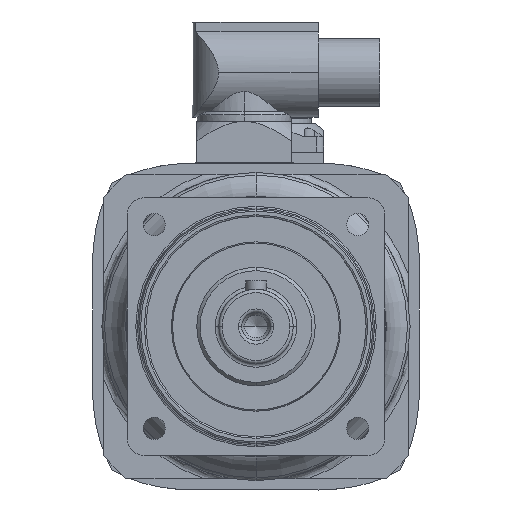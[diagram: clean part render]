
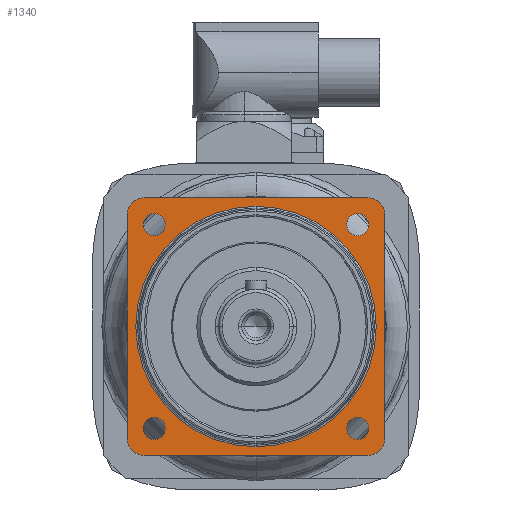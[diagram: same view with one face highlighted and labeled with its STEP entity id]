
A CAD part, left-side view. The second image highlights one B-rep face of the part: STEP entity #1340.
In plain terms, the highlighted planar face has unit normal (-1, 0, 0).
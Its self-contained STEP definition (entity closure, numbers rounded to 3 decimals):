
#1340=ADVANCED_FACE('',(#3512,#3513,#3514,#3515,#3516,#3517),#3518,.F.);
#1668=EDGE_CURVE('',#4000,#3994,#4003,.T.);
#1672=EDGE_CURVE('',#3994,#4000,#4007,.T.);
#3512=FACE_BOUND('',#6574,.T.);
#3513=FACE_BOUND('',#6575,.T.);
#3514=FACE_BOUND('',#6576,.T.);
#3515=FACE_BOUND('',#6577,.T.);
#3516=FACE_OUTER_BOUND('',#6578,.T.);
#3517=FACE_BOUND('',#6579,.T.);
#3518=PLANE('',#6580);
#3994=VERTEX_POINT('',#7219);
#4000=VERTEX_POINT('',#7227);
#4003=CIRCLE('',#7231,35.5);
#4007=CIRCLE('',#7237,35.5);
#6574=EDGE_LOOP('',(#11538,#11539));
#6575=EDGE_LOOP('',(#11540,#11541));
#6576=EDGE_LOOP('',(#11542,#11543));
#6577=EDGE_LOOP('',(#11544,#11545));
#6578=EDGE_LOOP('',(#11546,#11547,#11548,#11549,#11550,#11551,#11552,#11553));
#6579=EDGE_LOOP('',(#11554,#11555));
#6580=AXIS2_PLACEMENT_3D('',#11556,#11557,#11558);
#7219=CARTESIAN_POINT('',(-112.0,0.,35.5));
#7227=CARTESIAN_POINT('',(-112.0,0.,-35.5));
#7231=AXIS2_PLACEMENT_3D('',#12587,#12588,#12589);
#7237=AXIS2_PLACEMENT_3D('',#12593,#12594,#12595);
#11538=ORIENTED_EDGE('',*,*,#17834,.F.);
#11539=ORIENTED_EDGE('',*,*,#17687,.F.);
#11540=ORIENTED_EDGE('',*,*,#17835,.F.);
#11541=ORIENTED_EDGE('',*,*,#17692,.F.);
#11542=ORIENTED_EDGE('',*,*,#17836,.F.);
#11543=ORIENTED_EDGE('',*,*,#17697,.F.);
#11544=ORIENTED_EDGE('',*,*,#17837,.F.);
#11545=ORIENTED_EDGE('',*,*,#17702,.F.);
#11546=ORIENTED_EDGE('',*,*,#17838,.F.);
#11547=ORIENTED_EDGE('',*,*,#17839,.F.);
#11548=ORIENTED_EDGE('',*,*,#17840,.F.);
#11549=ORIENTED_EDGE('',*,*,#17841,.F.);
#11550=ORIENTED_EDGE('',*,*,#17842,.F.);
#11551=ORIENTED_EDGE('',*,*,#17843,.F.);
#11552=ORIENTED_EDGE('',*,*,#17844,.F.);
#11553=ORIENTED_EDGE('',*,*,#17845,.F.);
#11554=ORIENTED_EDGE('',*,*,#1668,.F.);
#11555=ORIENTED_EDGE('',*,*,#1672,.F.);
#11556=CARTESIAN_POINT('',(-112.0,0.0,0.0));
#11557=DIRECTION('',(1.0,0.0,0.0));
#11558=DIRECTION('',(0.0,0.0,-1.0));
#12587=CARTESIAN_POINT('',(-112.0,0.0,0.));
#12588=DIRECTION('',(-1.0,0.0,0.0));
#12589=DIRECTION('',(0.0,0.0,1.0));
#12593=CARTESIAN_POINT('',(-112.0,0.0,0.));
#12594=DIRECTION('',(-1.0,0.0,0.0));
#12595=DIRECTION('',(0.0,0.0,1.0));
#17687=EDGE_CURVE('',#19777,#19773,#19779,.T.);
#17692=EDGE_CURVE('',#19786,#19782,#19788,.T.);
#17697=EDGE_CURVE('',#19795,#19791,#19797,.T.);
#17702=EDGE_CURVE('',#19804,#19800,#19806,.T.);
#17834=EDGE_CURVE('',#19773,#19777,#19968,.T.);
#17835=EDGE_CURVE('',#19782,#19786,#19969,.T.);
#17836=EDGE_CURVE('',#19791,#19795,#19970,.T.);
#17837=EDGE_CURVE('',#19800,#19804,#19971,.T.);
#17838=EDGE_CURVE('',#19972,#19973,#19974,.T.);
#17839=EDGE_CURVE('',#19975,#19972,#19976,.T.);
#17840=EDGE_CURVE('',#19977,#19975,#19978,.T.);
#17841=EDGE_CURVE('',#19979,#19977,#19980,.T.);
#17842=EDGE_CURVE('',#19981,#19979,#19982,.T.);
#17843=EDGE_CURVE('',#19983,#19981,#19984,.T.);
#17844=EDGE_CURVE('',#19985,#19983,#19986,.T.);
#17845=EDGE_CURVE('',#19973,#19985,#19987,.T.);
#19773=VERTEX_POINT('',#22775);
#19777=VERTEX_POINT('',#22780);
#19779=CIRCLE('',#22783,3.3);
#19782=VERTEX_POINT('',#22786);
#19786=VERTEX_POINT('',#22791);
#19788=CIRCLE('',#22794,3.3);
#19791=VERTEX_POINT('',#22797);
#19795=VERTEX_POINT('',#22802);
#19797=CIRCLE('',#22805,3.3);
#19800=VERTEX_POINT('',#22808);
#19804=VERTEX_POINT('',#22813);
#19806=CIRCLE('',#22816,3.3);
#19968=CIRCLE('',#22990,3.3);
#19969=CIRCLE('',#22991,3.3);
#19970=CIRCLE('',#22992,3.3);
#19971=CIRCLE('',#22993,3.3);
#19972=VERTEX_POINT('',#22994);
#19973=VERTEX_POINT('',#22995);
#19974=CIRCLE('',#22996,5.0);
#19975=VERTEX_POINT('',#22997);
#19976=LINE('',#22998,#22999);
#19977=VERTEX_POINT('',#23000);
#19978=CIRCLE('',#23001,5.0);
#19979=VERTEX_POINT('',#23002);
#19980=LINE('',#23003,#23004);
#19981=VERTEX_POINT('',#23005);
#19982=CIRCLE('',#23006,5.0);
#19983=VERTEX_POINT('',#23007);
#19984=LINE('',#23008,#23009);
#19985=VERTEX_POINT('',#23010);
#19986=CIRCLE('',#23011,5.0);
#19987=LINE('',#23012,#23013);
#22775=CARTESIAN_POINT('',(-112.0,32.385,-32.385));
#22780=CARTESIAN_POINT('',(-112.0,27.719,-27.719));
#22783=AXIS2_PLACEMENT_3D('',#28247,#28248,#28249);
#22786=CARTESIAN_POINT('',(-112.0,32.385,32.385));
#22791=CARTESIAN_POINT('',(-112.0,27.719,27.719));
#22794=AXIS2_PLACEMENT_3D('',#28255,#28256,#28257);
#22797=CARTESIAN_POINT('',(-112.0,-32.385,32.385));
#22802=CARTESIAN_POINT('',(-112.0,-27.719,27.719));
#22805=AXIS2_PLACEMENT_3D('',#28263,#28264,#28265);
#22808=CARTESIAN_POINT('',(-112.0,-32.385,-32.385));
#22813=CARTESIAN_POINT('',(-112.0,-27.719,-27.719));
#22816=AXIS2_PLACEMENT_3D('',#28271,#28272,#28273);
#22990=AXIS2_PLACEMENT_3D('',#28412,#28413,#28414);
#22991=AXIS2_PLACEMENT_3D('',#28415,#28416,#28417);
#22992=AXIS2_PLACEMENT_3D('',#28418,#28419,#28420);
#22993=AXIS2_PLACEMENT_3D('',#28421,#28422,#28423);
#22994=CARTESIAN_POINT('',(-112.0,33.,-38.));
#22995=CARTESIAN_POINT('',(-112.0,38.0,-33.0));
#22996=AXIS2_PLACEMENT_3D('',#28424,#28425,#28426);
#22997=CARTESIAN_POINT('',(-112.0,-33.0,-38.0));
#22998=CARTESIAN_POINT('',(-112.0,8.25,-38.0));
#22999=VECTOR('',#28427,1.0);
#23000=CARTESIAN_POINT('',(-112.0,-38.,-33.));
#23001=AXIS2_PLACEMENT_3D('',#28428,#28429,#28430);
#23002=CARTESIAN_POINT('',(-112.0,-38.0,33.0));
#23003=CARTESIAN_POINT('',(-112.0,-38.0,-8.25));
#23004=VECTOR('',#28431,1.0);
#23005=CARTESIAN_POINT('',(-112.0,-33.,38.));
#23006=AXIS2_PLACEMENT_3D('',#28432,#28433,#28434);
#23007=CARTESIAN_POINT('',(-112.0,33.0,38.0));
#23008=CARTESIAN_POINT('',(-112.0,8.25,38.0));
#23009=VECTOR('',#28435,1.0);
#23010=CARTESIAN_POINT('',(-112.0,38.,33.));
#23011=AXIS2_PLACEMENT_3D('',#28436,#28437,#28438);
#23012=CARTESIAN_POINT('',(-112.0,38.0,8.25));
#23013=VECTOR('',#28439,1.0);
#28247=CARTESIAN_POINT('',(-112.0,30.052,-30.052));
#28248=DIRECTION('',(-1.0,0.0,-0.0));
#28249=DIRECTION('',(0.0,0.707,-0.707));
#28255=CARTESIAN_POINT('',(-112.0,30.052,30.052));
#28256=DIRECTION('',(-1.0,0.0,0.0));
#28257=DIRECTION('',(0.0,0.707,0.707));
#28263=CARTESIAN_POINT('',(-112.0,-30.052,30.052));
#28264=DIRECTION('',(-1.0,-0.0,0.0));
#28265=DIRECTION('',(0.0,-0.707,0.707));
#28271=CARTESIAN_POINT('',(-112.0,-30.052,-30.052));
#28272=DIRECTION('',(-1.0,-0.0,0.0));
#28273=DIRECTION('',(0.0,-0.707,-0.707));
#28412=CARTESIAN_POINT('',(-112.0,30.052,-30.052));
#28413=DIRECTION('',(-1.0,0.0,-0.0));
#28414=DIRECTION('',(0.0,0.707,-0.707));
#28415=CARTESIAN_POINT('',(-112.0,30.052,30.052));
#28416=DIRECTION('',(-1.0,0.0,0.0));
#28417=DIRECTION('',(0.0,0.707,0.707));
#28418=CARTESIAN_POINT('',(-112.0,-30.052,30.052));
#28419=DIRECTION('',(-1.0,-0.0,0.0));
#28420=DIRECTION('',(0.0,-0.707,0.707));
#28421=CARTESIAN_POINT('',(-112.0,-30.052,-30.052));
#28422=DIRECTION('',(-1.0,-0.0,0.0));
#28423=DIRECTION('',(0.0,-0.707,-0.707));
#28424=CARTESIAN_POINT('',(-112.0,33.,-33.));
#28425=DIRECTION('',(1.0,0.0,0.0));
#28426=DIRECTION('',(0.0,1.0,0.));
#28427=DIRECTION('',(-0.0,1.0,0.0));
#28428=CARTESIAN_POINT('',(-112.0,-33.,-33.));
#28429=DIRECTION('',(1.0,0.0,0.0));
#28430=DIRECTION('',(0.0,0.,-1.0));
#28431=DIRECTION('',(0.0,0.0,-1.0));
#28432=CARTESIAN_POINT('',(-112.0,-33.,33.));
#28433=DIRECTION('',(1.0,0.0,0.0));
#28434=DIRECTION('',(0.0,-1.0,0.));
#28435=DIRECTION('',(0.0,-1.0,0.0));
#28436=CARTESIAN_POINT('',(-112.0,33.,33.));
#28437=DIRECTION('',(1.0,0.0,-0.0));
#28438=DIRECTION('',(0.0,0.,1.0));
#28439=DIRECTION('',(0.0,0.0,1.0));
